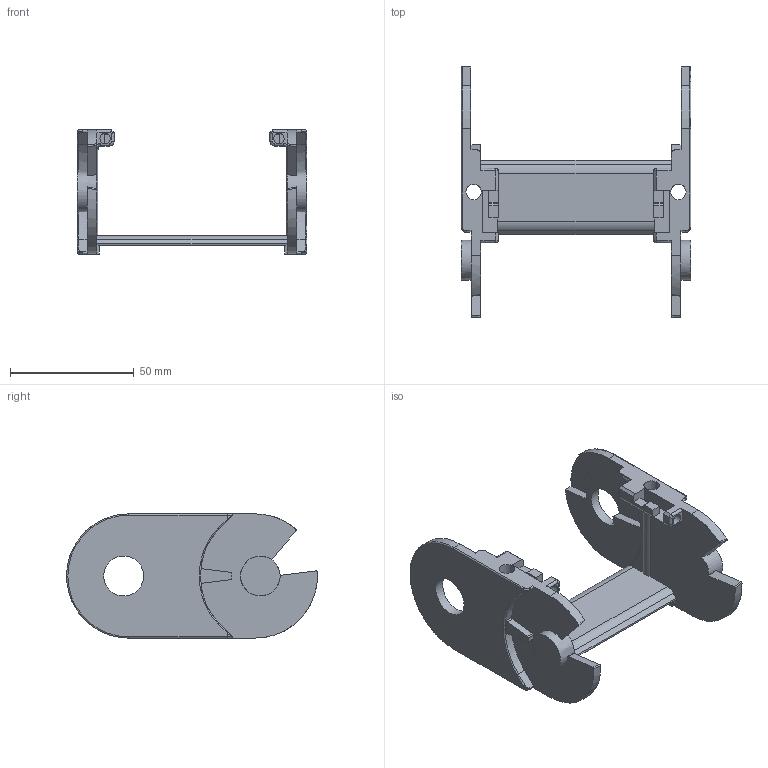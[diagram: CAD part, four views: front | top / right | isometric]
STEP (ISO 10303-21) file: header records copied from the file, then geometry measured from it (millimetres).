
FILE_DESCRIPTION((''),'2;1');
FILE_NAME('C:\Uebbing\PARAMETERKETTEN\KOLIBRI\Kol_50_095_2\Kol_50_095_2_Lasche.stp','2011-11-02T13:30:18',('Uebbing'),(''),'Autodesk Inventor 10','Autodesk Inventor 10','');
FILE_SCHEMA(('AUTOMOTIVE_DESIGN { 1 0 10303 214 1 1 1 1 }'));
Length unit declared in the file: millimetre
Products named in the file (1): Kol_50_095_2_Lasche
Bounding box: 92.88 x 101.47 x 50.25 mm (x, y, z)
Volume: 46574 mm3; surface area: 29713 mm2
Topology: 1 solids, 1 shells, 591 faces, 1571 edges, 1028 vertices
Faces by surface type: plane 319, cylinder 146, bspline 116, torus 10
Full cylindrical faces by diameter (mm): 2.021 x1, 3.549 x1, 4.221 x2, 6.231 x1, 16.08 x1, 16.18 x1
Entity records: 22235 total; most frequent: CARTESIAN_POINT 7776, ORIENTED_EDGE 3094, DIRECTION 2839, EDGE_CURVE 1547, VECTOR 1061, LINE 1061, VERTEX_POINT 1018, AXIS2_PLACEMENT_3D 889
